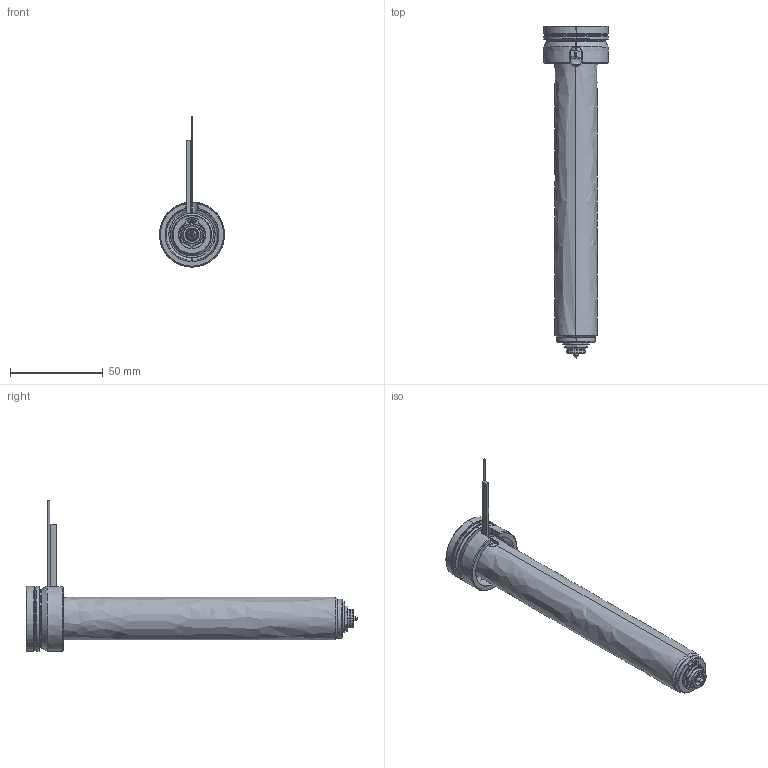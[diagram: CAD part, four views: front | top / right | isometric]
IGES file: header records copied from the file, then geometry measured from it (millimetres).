
Start section: SolidWorks IGES file using analytic representation for surfaces
Global section: file name: C:\Documents and Settings\ws-20\Desktop\TEM\UGEP3054-S-A-0 [Øf-0.90 ØC-7.0].IGS; native system: SolidWorks 2012; preprocessor: SolidWorks 2012; author: ws-20; date: 120402.143733; units: millimetre
Bounding box: 35 x 178.8 x 80.9 mm (x, y, z)
Surface area: 26587.3 mm2 (no closed solid volume)
Topology: 0 solids, 0 shells, 136 faces, 2060 edges, 2060 vertices
Faces by surface type: revolution 84, bspline 52
